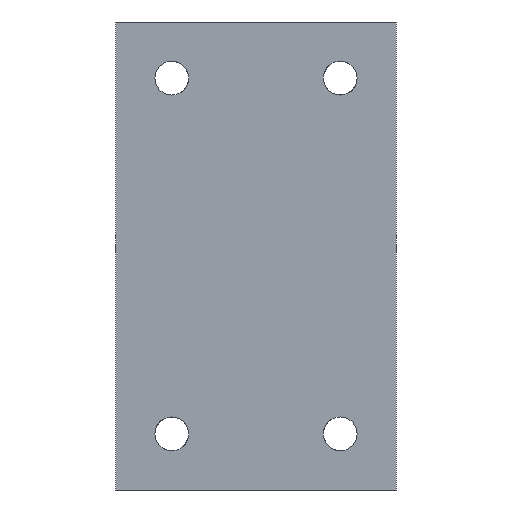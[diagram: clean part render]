
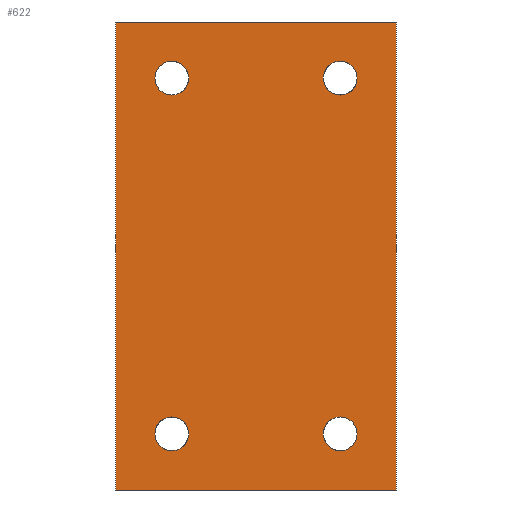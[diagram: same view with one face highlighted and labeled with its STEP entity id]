
A CAD part, front view. The second image highlights one B-rep face of the part: STEP entity #622.
In plain terms, the highlighted face is a extrusion surface.
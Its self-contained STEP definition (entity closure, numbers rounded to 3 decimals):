
#439=CARTESIAN_POINT('Control Point',(-75.,0.,0.)) ;
#440=CARTESIAN_POINT('Control Point',(-75.,0.,-125.)) ;
#444=CARTESIAN_POINT('Line Origine',(-37.5,0.,-125.)) ;
#448=CARTESIAN_POINT('Vertex',(-75.,0.,-125.)) ;
#450=CARTESIAN_POINT('Vertex',(0.,0.,-125.)) ;
#453=CARTESIAN_POINT('Line Origine',(0.,0.,-62.5)) ;
#457=CARTESIAN_POINT('Vertex',(0.,0.,0.)) ;
#460=CARTESIAN_POINT('Line Origine',(-37.5,0.,0.)) ;
#464=CARTESIAN_POINT('Vertex',(-75.,0.,0.)) ;
#467=CARTESIAN_POINT('Line Origine',(-75.,0.,-62.5)) ;
#479=CARTESIAN_POINT('Control Point',(-10.5,0.,-110.)) ;
#480=CARTESIAN_POINT('Control Point',(-10.5,0.,-111.247)) ;
#481=CARTESIAN_POINT('Control Point',(-10.932,0.,-112.494)) ;
#482=CARTESIAN_POINT('Control Point',(-11.8,0.,-113.539)) ;
#483=CARTESIAN_POINT('Control Point',(-13.71,0.,-114.63)) ;
#484=CARTESIAN_POINT('Control Point',(-15.841,0.,-114.54)) ;
#485=CARTESIAN_POINT('Control Point',(-16.671,0.,-114.305)) ;
#486=CARTESIAN_POINT('Control Point',(-18.085,0.,-113.511)) ;
#487=CARTESIAN_POINT('Control Point',(-19.032,0.,-112.204)) ;
#488=CARTESIAN_POINT('Control Point',(-19.344,0.,-111.498)) ;
#489=CARTESIAN_POINT('Control Point',(-19.5,0.,-110.749)) ;
#490=CARTESIAN_POINT('Control Point',(-19.5,0.,-110.)) ;
#491=CARTESIAN_POINT('Vertex',(-10.5,0.,-110.)) ;
#493=CARTESIAN_POINT('Vertex',(-19.5,0.,-110.)) ;
#497=CARTESIAN_POINT('Control Point',(-19.5,0.,-110.)) ;
#498=CARTESIAN_POINT('Control Point',(-19.5,0.,-108.753)) ;
#499=CARTESIAN_POINT('Control Point',(-19.068,0.,-107.506)) ;
#500=CARTESIAN_POINT('Control Point',(-18.2,0.,-106.461)) ;
#501=CARTESIAN_POINT('Control Point',(-16.29,0.,-105.37)) ;
#502=CARTESIAN_POINT('Control Point',(-14.159,0.,-105.46)) ;
#503=CARTESIAN_POINT('Control Point',(-13.329,0.,-105.695)) ;
#504=CARTESIAN_POINT('Control Point',(-11.915,0.,-106.489)) ;
#505=CARTESIAN_POINT('Control Point',(-10.968,0.,-107.796)) ;
#506=CARTESIAN_POINT('Control Point',(-10.656,0.,-108.502)) ;
#507=CARTESIAN_POINT('Control Point',(-10.5,0.,-109.251)) ;
#508=CARTESIAN_POINT('Control Point',(-10.5,0.,-110.)) ;
#515=CARTESIAN_POINT('Control Point',(-55.5,0.,-110.)) ;
#516=CARTESIAN_POINT('Control Point',(-55.5,0.,-111.247)) ;
#517=CARTESIAN_POINT('Control Point',(-55.932,0.,-112.494)) ;
#518=CARTESIAN_POINT('Control Point',(-56.8,0.,-113.539)) ;
#519=CARTESIAN_POINT('Control Point',(-58.71,0.,-114.63)) ;
#520=CARTESIAN_POINT('Control Point',(-60.841,0.,-114.54)) ;
#521=CARTESIAN_POINT('Control Point',(-61.671,0.,-114.305)) ;
#522=CARTESIAN_POINT('Control Point',(-63.085,0.,-113.511)) ;
#523=CARTESIAN_POINT('Control Point',(-64.032,0.,-112.204)) ;
#524=CARTESIAN_POINT('Control Point',(-64.344,0.,-111.498)) ;
#525=CARTESIAN_POINT('Control Point',(-64.5,0.,-110.749)) ;
#526=CARTESIAN_POINT('Control Point',(-64.5,0.,-110.)) ;
#527=CARTESIAN_POINT('Vertex',(-55.5,0.,-110.)) ;
#529=CARTESIAN_POINT('Vertex',(-64.5,0.,-110.)) ;
#533=CARTESIAN_POINT('Control Point',(-64.5,0.,-110.)) ;
#534=CARTESIAN_POINT('Control Point',(-64.5,0.,-108.753)) ;
#535=CARTESIAN_POINT('Control Point',(-64.068,0.,-107.506)) ;
#536=CARTESIAN_POINT('Control Point',(-63.2,0.,-106.461)) ;
#537=CARTESIAN_POINT('Control Point',(-61.29,0.,-105.37)) ;
#538=CARTESIAN_POINT('Control Point',(-59.159,0.,-105.46)) ;
#539=CARTESIAN_POINT('Control Point',(-58.329,0.,-105.695)) ;
#540=CARTESIAN_POINT('Control Point',(-56.915,0.,-106.489)) ;
#541=CARTESIAN_POINT('Control Point',(-55.968,0.,-107.796)) ;
#542=CARTESIAN_POINT('Control Point',(-55.656,0.,-108.502)) ;
#543=CARTESIAN_POINT('Control Point',(-55.5,0.,-109.251)) ;
#544=CARTESIAN_POINT('Control Point',(-55.5,0.,-110.)) ;
#551=CARTESIAN_POINT('Control Point',(-55.5,0.,-15.)) ;
#552=CARTESIAN_POINT('Control Point',(-55.5,0.,-16.247)) ;
#553=CARTESIAN_POINT('Control Point',(-55.932,0.,-17.494)) ;
#554=CARTESIAN_POINT('Control Point',(-56.8,0.,-18.539)) ;
#555=CARTESIAN_POINT('Control Point',(-58.71,0.,-19.63)) ;
#556=CARTESIAN_POINT('Control Point',(-60.841,0.,-19.54)) ;
#557=CARTESIAN_POINT('Control Point',(-61.671,0.,-19.305)) ;
#558=CARTESIAN_POINT('Control Point',(-63.085,0.,-18.511)) ;
#559=CARTESIAN_POINT('Control Point',(-64.032,0.,-17.204)) ;
#560=CARTESIAN_POINT('Control Point',(-64.344,0.,-16.498)) ;
#561=CARTESIAN_POINT('Control Point',(-64.5,0.,-15.749)) ;
#562=CARTESIAN_POINT('Control Point',(-64.5,0.,-15.)) ;
#563=CARTESIAN_POINT('Vertex',(-55.5,0.,-15.)) ;
#565=CARTESIAN_POINT('Vertex',(-64.5,0.,-15.)) ;
#569=CARTESIAN_POINT('Control Point',(-64.5,0.,-15.)) ;
#570=CARTESIAN_POINT('Control Point',(-64.5,0.,-13.753)) ;
#571=CARTESIAN_POINT('Control Point',(-64.068,0.,-12.506)) ;
#572=CARTESIAN_POINT('Control Point',(-63.2,0.,-11.461)) ;
#573=CARTESIAN_POINT('Control Point',(-61.29,0.,-10.37)) ;
#574=CARTESIAN_POINT('Control Point',(-59.159,0.,-10.46)) ;
#575=CARTESIAN_POINT('Control Point',(-58.329,0.,-10.695)) ;
#576=CARTESIAN_POINT('Control Point',(-56.915,0.,-11.489)) ;
#577=CARTESIAN_POINT('Control Point',(-55.968,0.,-12.796)) ;
#578=CARTESIAN_POINT('Control Point',(-55.656,0.,-13.502)) ;
#579=CARTESIAN_POINT('Control Point',(-55.5,0.,-14.251)) ;
#580=CARTESIAN_POINT('Control Point',(-55.5,0.,-15.)) ;
#587=CARTESIAN_POINT('Control Point',(-10.5,0.,-15.)) ;
#588=CARTESIAN_POINT('Control Point',(-10.5,0.,-16.247)) ;
#589=CARTESIAN_POINT('Control Point',(-10.932,0.,-17.494)) ;
#590=CARTESIAN_POINT('Control Point',(-11.8,0.,-18.539)) ;
#591=CARTESIAN_POINT('Control Point',(-13.71,0.,-19.63)) ;
#592=CARTESIAN_POINT('Control Point',(-15.841,0.,-19.54)) ;
#593=CARTESIAN_POINT('Control Point',(-16.671,0.,-19.305)) ;
#594=CARTESIAN_POINT('Control Point',(-18.085,0.,-18.511)) ;
#595=CARTESIAN_POINT('Control Point',(-19.032,0.,-17.204)) ;
#596=CARTESIAN_POINT('Control Point',(-19.344,0.,-16.498)) ;
#597=CARTESIAN_POINT('Control Point',(-19.5,0.,-15.749)) ;
#598=CARTESIAN_POINT('Control Point',(-19.5,0.,-15.)) ;
#599=CARTESIAN_POINT('Vertex',(-10.5,0.,-15.)) ;
#601=CARTESIAN_POINT('Vertex',(-19.5,0.,-15.)) ;
#605=CARTESIAN_POINT('Control Point',(-19.5,0.,-15.)) ;
#606=CARTESIAN_POINT('Control Point',(-19.5,0.,-13.753)) ;
#607=CARTESIAN_POINT('Control Point',(-19.068,0.,-12.506)) ;
#608=CARTESIAN_POINT('Control Point',(-18.2,0.,-11.461)) ;
#609=CARTESIAN_POINT('Control Point',(-16.29,0.,-10.37)) ;
#610=CARTESIAN_POINT('Control Point',(-14.159,0.,-10.46)) ;
#611=CARTESIAN_POINT('Control Point',(-13.329,0.,-10.695)) ;
#612=CARTESIAN_POINT('Control Point',(-11.915,0.,-11.489)) ;
#613=CARTESIAN_POINT('Control Point',(-10.968,0.,-12.796)) ;
#614=CARTESIAN_POINT('Control Point',(-10.656,0.,-13.502)) ;
#615=CARTESIAN_POINT('Control Point',(-10.5,0.,-14.251)) ;
#616=CARTESIAN_POINT('Control Point',(-10.5,0.,-15.)) ;
#441=DIRECTION('Vector Direction',(1.,0.,0.)) ;
#445=DIRECTION('Vector Direction',(1.,0.,0.)) ;
#454=DIRECTION('Vector Direction',(0.,0.,-1.)) ;
#461=DIRECTION('Vector Direction',(1.,0.,0.)) ;
#468=DIRECTION('Vector Direction',(0.,0.,-1.)) ;
#473=ORIENTED_EDGE('',*,*,#452,.T.) ;
#474=ORIENTED_EDGE('',*,*,#459,.T.) ;
#475=ORIENTED_EDGE('',*,*,#466,.T.) ;
#476=ORIENTED_EDGE('',*,*,#471,.T.) ;
#511=ORIENTED_EDGE('',*,*,#495,.T.) ;
#512=ORIENTED_EDGE('',*,*,#509,.T.) ;
#547=ORIENTED_EDGE('',*,*,#531,.T.) ;
#548=ORIENTED_EDGE('',*,*,#545,.T.) ;
#583=ORIENTED_EDGE('',*,*,#567,.T.) ;
#584=ORIENTED_EDGE('',*,*,#581,.T.) ;
#619=ORIENTED_EDGE('',*,*,#603,.T.) ;
#620=ORIENTED_EDGE('',*,*,#617,.T.) ;
#513=FACE_BOUND('',#510,.T.) ;
#549=FACE_BOUND('',#546,.T.) ;
#585=FACE_BOUND('',#582,.T.) ;
#621=FACE_BOUND('',#618,.T.) ;
#442=VECTOR('Extrusion Surface Vector',#441,1.) ;
#446=VECTOR('Line Direction',#445,1.) ;
#455=VECTOR('Line Direction',#454,1.) ;
#462=VECTOR('Line Direction',#461,1.) ;
#469=VECTOR('Line Direction',#468,1.) ;
#622=ADVANCED_FACE('Superficie.6',(#477,#513,#549,#585,#621),#443,.T.) ;
#438=B_SPLINE_CURVE_WITH_KNOTS('',1,(#439,#440),.UNSPECIFIED.,.F.,.U.,(2,2),(-62.5,62.5),.UNSPECIFIED.) ;
#478=B_SPLINE_CURVE_WITH_KNOTS('',5,(#479,#480,#481,#482,#483,#484,#485,#486,#487,#488,#489,#490),.UNSPECIFIED.,.F.,.U.,(6,3,3,6),(0.,8.818,14.697,19.993),.UNSPECIFIED.) ;
#496=B_SPLINE_CURVE_WITH_KNOTS('',5,(#497,#498,#499,#500,#501,#502,#503,#504,#505,#506,#507,#508),.UNSPECIFIED.,.F.,.U.,(6,3,3,6),(0.,8.818,14.697,19.993),.UNSPECIFIED.) ;
#514=B_SPLINE_CURVE_WITH_KNOTS('',5,(#515,#516,#517,#518,#519,#520,#521,#522,#523,#524,#525,#526),.UNSPECIFIED.,.F.,.U.,(6,3,3,6),(0.,8.818,14.697,19.993),.UNSPECIFIED.) ;
#532=B_SPLINE_CURVE_WITH_KNOTS('',5,(#533,#534,#535,#536,#537,#538,#539,#540,#541,#542,#543,#544),.UNSPECIFIED.,.F.,.U.,(6,3,3,6),(0.,8.818,14.697,19.993),.UNSPECIFIED.) ;
#550=B_SPLINE_CURVE_WITH_KNOTS('',5,(#551,#552,#553,#554,#555,#556,#557,#558,#559,#560,#561,#562),.UNSPECIFIED.,.F.,.U.,(6,3,3,6),(0.,8.818,14.697,19.993),.UNSPECIFIED.) ;
#568=B_SPLINE_CURVE_WITH_KNOTS('',5,(#569,#570,#571,#572,#573,#574,#575,#576,#577,#578,#579,#580),.UNSPECIFIED.,.F.,.U.,(6,3,3,6),(0.,8.818,14.697,19.993),.UNSPECIFIED.) ;
#586=B_SPLINE_CURVE_WITH_KNOTS('',5,(#587,#588,#589,#590,#591,#592,#593,#594,#595,#596,#597,#598),.UNSPECIFIED.,.F.,.U.,(6,3,3,6),(0.,8.818,14.697,19.993),.UNSPECIFIED.) ;
#604=B_SPLINE_CURVE_WITH_KNOTS('',5,(#605,#606,#607,#608,#609,#610,#611,#612,#613,#614,#615,#616),.UNSPECIFIED.,.F.,.U.,(6,3,3,6),(0.,8.818,14.697,19.993),.UNSPECIFIED.) ;
#452=EDGE_CURVE('',#449,#451,#447,.T.) ;
#459=EDGE_CURVE('',#451,#458,#456,.F.) ;
#466=EDGE_CURVE('',#458,#465,#463,.F.) ;
#471=EDGE_CURVE('',#465,#449,#470,.T.) ;
#495=EDGE_CURVE('',#492,#494,#478,.T.) ;
#509=EDGE_CURVE('',#494,#492,#496,.T.) ;
#531=EDGE_CURVE('',#528,#530,#514,.T.) ;
#545=EDGE_CURVE('',#530,#528,#532,.T.) ;
#567=EDGE_CURVE('',#564,#566,#550,.T.) ;
#581=EDGE_CURVE('',#566,#564,#568,.T.) ;
#603=EDGE_CURVE('',#600,#602,#586,.T.) ;
#617=EDGE_CURVE('',#602,#600,#604,.T.) ;
#472=EDGE_LOOP('',(#473,#474,#475,#476)) ;
#510=EDGE_LOOP('',(#511,#512)) ;
#546=EDGE_LOOP('',(#547,#548)) ;
#582=EDGE_LOOP('',(#583,#584)) ;
#618=EDGE_LOOP('',(#619,#620)) ;
#477=FACE_OUTER_BOUND('',#472,.T.) ;
#447=LINE('Line',#444,#446) ;
#456=LINE('Line',#453,#455) ;
#463=LINE('Line',#460,#462) ;
#470=LINE('Line',#467,#469) ;
#443=SURFACE_OF_LINEAR_EXTRUSION('generated tabulated cylinder',#438,#442) ;
#449=VERTEX_POINT('',#448) ;
#451=VERTEX_POINT('',#450) ;
#458=VERTEX_POINT('',#457) ;
#465=VERTEX_POINT('',#464) ;
#492=VERTEX_POINT('',#491) ;
#494=VERTEX_POINT('',#493) ;
#528=VERTEX_POINT('',#527) ;
#530=VERTEX_POINT('',#529) ;
#564=VERTEX_POINT('',#563) ;
#566=VERTEX_POINT('',#565) ;
#600=VERTEX_POINT('',#599) ;
#602=VERTEX_POINT('',#601) ;
